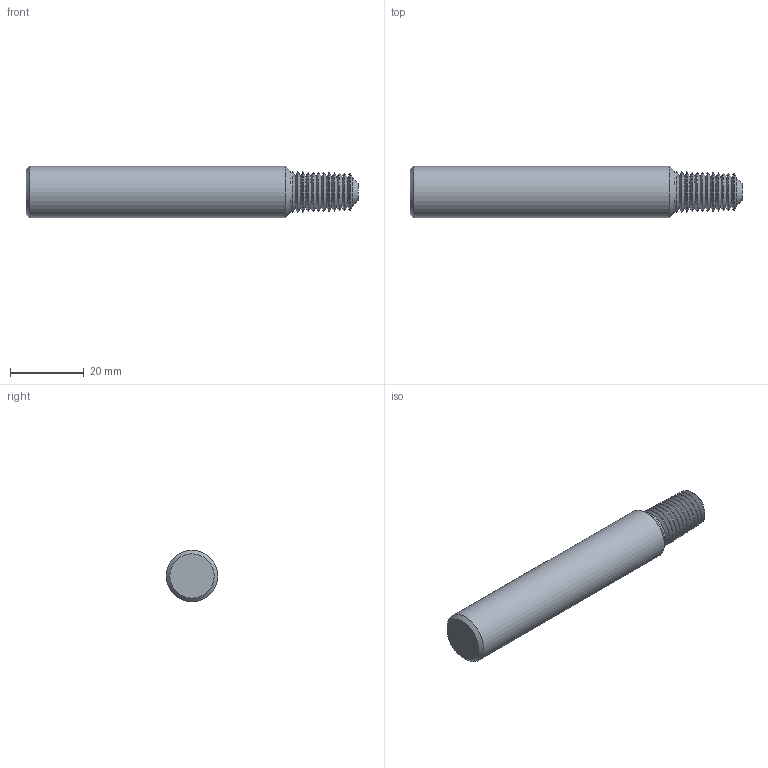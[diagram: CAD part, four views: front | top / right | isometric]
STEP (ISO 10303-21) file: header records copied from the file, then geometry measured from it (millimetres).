
FILE_DESCRIPTION(/* description */ (''),/* implementation_level */ '2;1');
FILE_NAME(/* name */ '171609-00036537-TDM',/* time_stamp */ '2024-02-21T12:55:39+01:00',/* author */ (''),/* organization */ (''),/* preprocessor_version */ 'ST-DEVELOPER v16.5',/* originating_system */ 'HiCAD 2017 2201.0 Build 268',/* authorisation */ '');
FILE_SCHEMA (('AUTOMOTIVE_DESIGN { 1 0 10303 214 1 1 1 1 }'));
Length unit declared in the file: millimetre
Products named in the file (3): Root; ROTATIONSTEIL_0
Assembly tree (2 placements, depth 3):
  Root
    ROTATIONSTEIL_0
      ROTATIONSTEIL_0
Bounding box: 90 x 14 x 14 mm (x, y, z)
Volume: 12222.7 mm3; surface area: 4415.9 mm2
Topology: 2 solids, 2 shells, 57 faces, 110 edges, 57 vertices
Faces by surface type: cone 26, torus 24, plane 4, cylinder 3
Full cylindrical faces by diameter (mm): 11.068 x1, 11.069 x1, 14 x1
Entity records: 1734 total; most frequent: DIRECTION 232, CARTESIAN_POINT 171, AXIS2_PLACEMENT_3D 116, PRESENTATION_STYLE_ASSIGNMENT 112, COLOUR_RGB 112, DRAUGHTING_PRE_DEFINED_CURVE_FONT 110, CURVE_STYLE 110, OVER_RIDING_STYLED_ITEM 110
